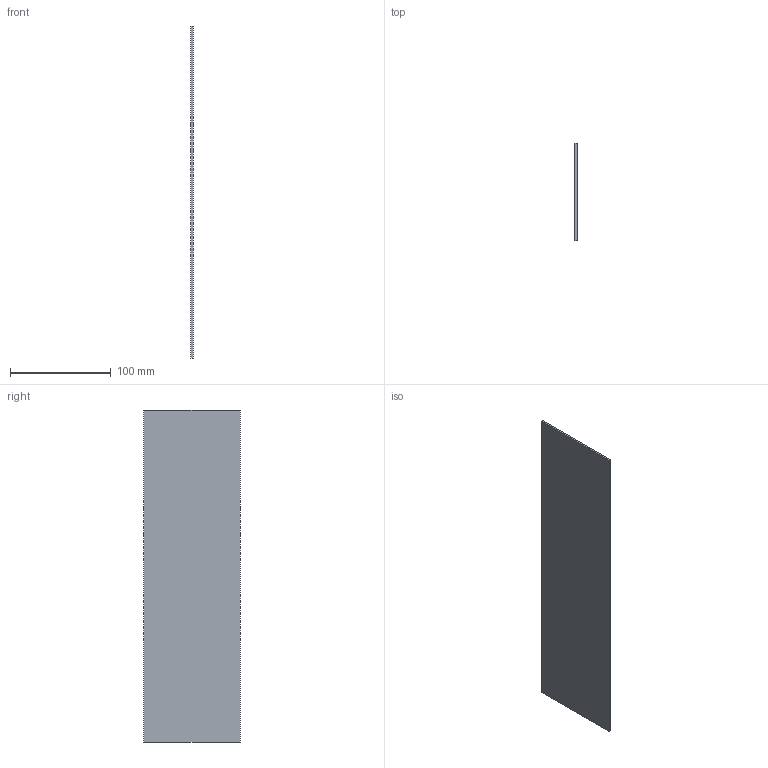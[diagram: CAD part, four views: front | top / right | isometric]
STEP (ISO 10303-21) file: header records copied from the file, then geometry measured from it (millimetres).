
FILE_DESCRIPTION(('Open CASCADE Model'),'2;1');
FILE_NAME('solar_sub','2026-08-12T02:42:46',('Author'),('Open CASCADE'), 'Open CASCADE STEP processor 7.9','build123d','Unknown');
FILE_SCHEMA(('AUTOMOTIVE_DESIGN { 1 0 10303 214 1 1 1 1 }'));
Length unit declared in the file: millimetre
Products named in the file (2): solar_sub
Assembly tree (1 placements, depth 2):
  solar_sub
    solar_sub
Bounding box: 2 x 96 x 330 mm (x, y, z)
Volume: 63360 mm3; surface area: 65064 mm2
Topology: 1 solids, 1 shells, 6 faces, 12 edges, 8 vertices
Faces by surface type: plane 6
Entity records: 340 total; most frequent: CARTESIAN_POINT 52, DIRECTION 52, LINE 36, VECTOR 36, ORIENTED_EDGE 24, PCURVE 24, DEFINITIONAL_REPRESENTATION 24, EDGE_CURVE 12
